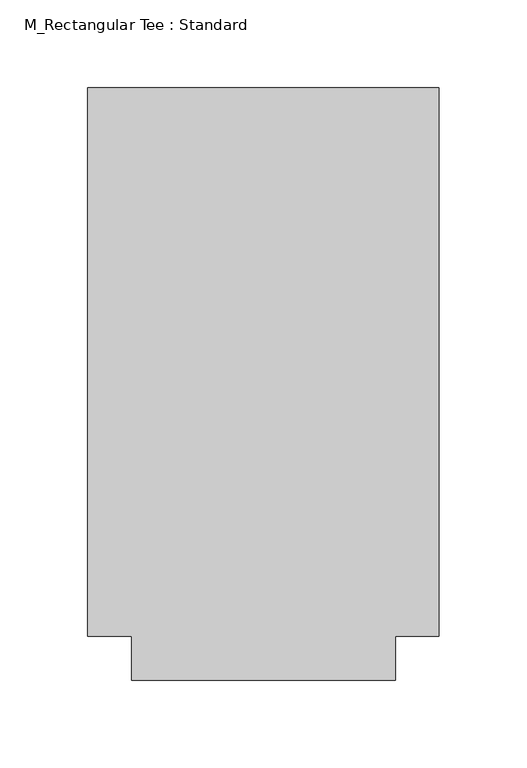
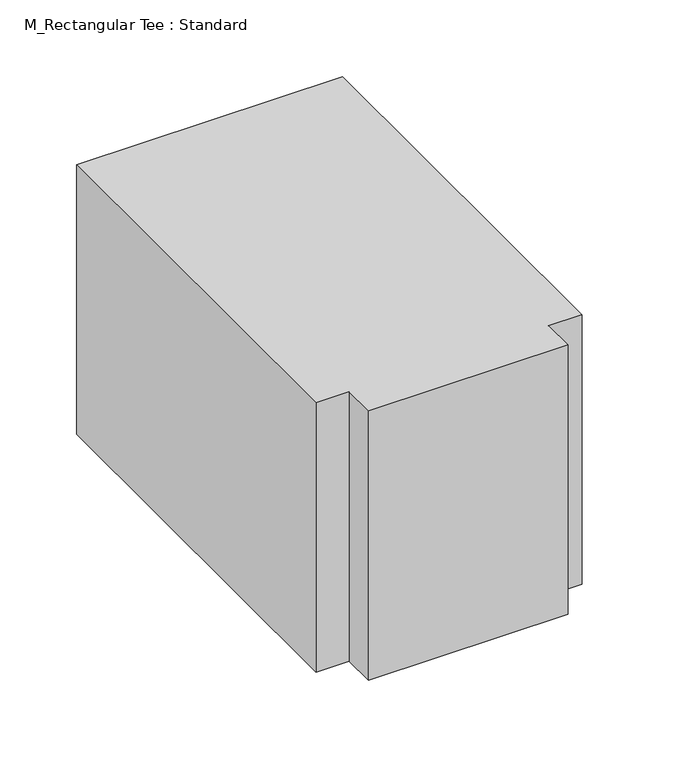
"""IFC4 building model written with IfcOpenShell, lengths in millimetres: duct fitting geometry, M_Rectangular Tee : Standard."""

import ifcopenshell
import ifcopenshell.guid

model = None  # the IFC model being written
_history = None  # IfcOwnerHistory: only IFC2X3 demands one
_inside = {}  # id of a spatial element -> (the spatial element, [elements in it])
_under = {}  # id of a project, library or spatial element -> (it, [spatial elements below it])
_declared = {}  # id of a project -> (the project, [libraries it declares])
_typed = {}  # id of a type object -> (the type object, [elements of that type])
_made_of = {}  # id of a material, layer set ... -> (it, [elements and type objects made of it])


def new_model(schema):
    """Start an empty IFC model of exactly this schema.

    Asked for "IFC4X3", IfcOpenShell would pick the latest addendum, in which some entities
    have other attributes; the version numbers below select the first issue.
    IFC2X3 requires an IfcOwnerHistory on every rooted entity: one is made here for all.
    """
    global model, _history
    if schema == "IFC4X3":
        model = ifcopenshell.file(schema_version=(4, 3, 0, 0))
    else:
        model = ifcopenshell.file(schema=schema)
    _inside.clear()
    _under.clear()
    _declared.clear()
    _typed.clear()
    _made_of.clear()
    _history = None
    if model.schema == "IFC2X3":
        org = make("IfcOrganization", Name="unknown")
        user = make(
            "IfcPersonAndOrganization",
            ThePerson=make("IfcPerson", FamilyName="unknown"),
            TheOrganization=org,
        )
        app = make(
            "IfcApplication",
            ApplicationDeveloper=org,
            Version="unknown",
            ApplicationFullName="unknown",
            ApplicationIdentifier="unknown",
        )
        _history = make(
            "IfcOwnerHistory",
            OwningUser=user,
            OwningApplication=app,
            ChangeAction="ADDED",
            CreationDate=0,
        )
    return model


def make(cls, **values):
    """One entity of the class cls with the attributes given. An attribute that is None is left unset."""
    return model.create_entity(
        cls, **{name: value for name, value in values.items() if value is not None}
    )


def rooted(cls, **values):
    """An entity with a GlobalId (a new one), such as an element, a storey or a relation."""
    return make(cls, GlobalId=ifcopenshell.guid.new(), OwnerHistory=_history, **values)


def si_unit(unit_type, name, prefix=None):
    """IfcSIUnit, for example si_unit("LENGTHUNIT", "METRE", prefix="MILLI")."""
    return make("IfcSIUnit", UnitType=unit_type, Prefix=prefix, Name=name)


def assignment(units):
    """IfcUnitAssignment: the units of a project."""
    return None if units is None else make("IfcUnitAssignment", Units=units)


def point(xyz):
    """IfcCartesianPoint."""
    return None if xyz is None else make("IfcCartesianPoint", Coordinates=xyz)


def direction(xyz):
    """IfcDirection."""
    return None if xyz is None else make("IfcDirection", DirectionRatios=xyz)


def frame(location, z_axis=None, x_axis=None):
    """IfcAxis2Placement3D, a coordinate frame: its origin and axes. An axis left out is left unset."""
    return make(
        "IfcAxis2Placement3D",
        Location=point(location),
        Axis=direction(z_axis),
        RefDirection=direction(x_axis),
    )


def origin():
    """The frame at (0, 0, 0) with its axes left unset."""
    return frame((0.0, 0.0, 0.0))


def place(relative_to, where):
    """IfcLocalPlacement: puts the frame where relative to a parent placement (None: the world)."""
    return make(
        "IfcLocalPlacement", PlacementRelTo=relative_to, RelativePlacement=where
    )


def context(
    kind, dimensions, precision=None, world=None, true_north=None, identifier=None
):
    """IfcGeometricRepresentationContext, for example the 3D "Model" context."""
    return make(
        "IfcGeometricRepresentationContext",
        ContextIdentifier=identifier,
        ContextType=kind,
        CoordinateSpaceDimension=dimensions,
        Precision=precision,
        WorldCoordinateSystem=world,
        TrueNorth=true_north,
    )


def project(units=None, contexts=None):
    """IfcProject with its units and contexts."""
    return rooted(
        "IfcProject",
        Name="project",
        RepresentationContexts=contexts,
        UnitsInContext=assignment(units),
    )


def spatial(cls, under=None, at=None, **own):
    """A site, building, storey or space (cls), placed at a placement, below another one or the project."""
    s = rooted(cls, ObjectPlacement=at, **own)
    if under is not None:
        _under.setdefault(under.id(), (under, []))[1].append(s)
    return s


def polyline(points):
    """IfcPolyline through the points."""
    return make("IfcPolyline", Points=[point(p) for p in points])


def outline(outer, holes=None, kind="AREA"):
    """IfcArbitraryClosedProfileDef: a profile drawn as a closed curve; with holes, ...WithVoids."""
    if holes is None:
        return make("IfcArbitraryClosedProfileDef", ProfileType=kind, OuterCurve=outer)
    return make(
        "IfcArbitraryProfileDefWithVoids",
        ProfileType=kind,
        OuterCurve=outer,
        InnerCurves=holes,
    )


def extrude(swept, where, along, depth):
    """IfcExtrudedAreaSolid: the profile swept, set in the frame where, extruded along a direction by depth."""
    return make(
        "IfcExtrudedAreaSolid",
        SweptArea=swept,
        Position=where,
        ExtrudedDirection=direction(along),
        Depth=depth,
    )


def shape(context_of_items, identifier, shape_type, items):
    """IfcShapeRepresentation: the items that make up one representation, for example the "Body"."""
    return make(
        "IfcShapeRepresentation",
        ContextOfItems=context_of_items,
        RepresentationIdentifier=identifier,
        RepresentationType=shape_type,
        Items=items,
    )


def source(mapping_origin, context_of_items, identifier, shape_type, items):
    """IfcRepresentationMap: a shape defined once, which mapped items show again and again."""
    return make(
        "IfcRepresentationMap",
        MappingOrigin=mapping_origin,
        MappedRepresentation=shape(context_of_items, identifier, shape_type, items),
    )


def transform(
    local_origin,
    x_axis=None,
    y_axis=None,
    z_axis=None,
    scale=None,
    scale2=None,
    scale3=None,
    uniform=True,
):
    """IfcCartesianTransformationOperator3D, or its non-uniform kind. x_axis, y_axis, z_axis: its Axis1, 2, 3."""
    if uniform:
        return make(
            "IfcCartesianTransformationOperator3D",
            Axis1=direction(x_axis),
            Axis2=direction(y_axis),
            LocalOrigin=point(local_origin),
            Scale=scale,
            Axis3=direction(z_axis),
        )
    return make(
        "IfcCartesianTransformationOperator3DnonUniform",
        Axis1=direction(x_axis),
        Axis2=direction(y_axis),
        LocalOrigin=point(local_origin),
        Scale=scale,
        Axis3=direction(z_axis),
        Scale2=scale2,
        Scale3=scale3,
    )


def mapped(mapping_source, mapping_target):
    """IfcMappedItem: shows the shape of a source again, moved by a transform."""
    return make(
        "IfcMappedItem", MappingSource=mapping_source, MappingTarget=mapping_target
    )


def made_of(thing, what):
    """Note that an element or type object is made of a material, layer set ...; save() writes the relation."""
    if what is not None:
        _made_of.setdefault(what.id(), (what, []))[1].append(thing)
    return thing


def element(
    cls,
    number,
    at=None,
    inside=None,
    cuts=None,
    type_object=None,
    material=None,
    context=None,
    identifier="Body",
    shape_type=None,
    held_by="IfcProductDefinitionShape",
    body=None,
    shapes=None,
    **own,
):
    """One element of the class cls, such as IfcWall. Its Tag is "e" and its number.

    at: its placement. inside: the storey or other place that contains it. cuts: it is an
    opening in that element (IfcRelVoidsElement). A single representation is given by context,
    identifier, shape_type and body (its items); several are given by shapes. held_by: the class
    of the entity that holds the representations. save() writes the other relations.
    """
    e = rooted(cls, Tag="e%d" % number, ObjectPlacement=at, **own)
    if body is not None:
        shapes = [shape(context, identifier, shape_type, body)]
    if shapes is not None:
        e.Representation = make(held_by, Representations=shapes)
    if inside is not None:
        _inside.setdefault(inside.id(), (inside, []))[1].append(e)
    if cuts is not None:
        rooted(
            "IfcRelVoidsElement", RelatingBuildingElement=cuts, RelatedOpeningElement=e
        )
    if type_object is not None:
        _typed.setdefault(type_object.id(), (type_object, []))[1].append(e)
    return made_of(e, material)


def aggregate(whole, parts):
    """IfcRelAggregates: a whole, such as a stair, and the parts it consists of."""
    return rooted("IfcRelAggregates", RelatingObject=whole, RelatedObjects=parts)


def save(model, path):
    """Write the relations noted so far, then the file.

    IfcRelAggregates (storeys below a building ...), IfcRelContainedInSpatialStructure (elements
    in a storey), IfcRelDefinesByType, IfcRelAssociatesMaterial and IfcRelDeclares: one each for
    every whole, place, type object, material and project.
    """
    for whole, parts in _under.values():
        aggregate(whole, parts)
    for where, things in _inside.values():
        rooted(
            "IfcRelContainedInSpatialStructure",
            RelatedElements=things,
            RelatingStructure=where,
        )
    for kind, things in _typed.values():
        rooted("IfcRelDefinesByType", RelatedObjects=things, RelatingType=kind)
    for what, things in _made_of.values():
        rooted("IfcRelAssociatesMaterial", RelatedObjects=things, RelatingMaterial=what)
    for by, libraries in _declared.values():
        rooted("IfcRelDeclares", RelatingContext=by, RelatedDefinitions=libraries)
    model.write(path)


def m_rectangular_tee_standard_5b520c83(model_context):
    return source(origin(), model_context, "Body", "SweptSolid", [
        extrude(outline(polyline([(-100.0, -155.9375), (-100.0, 155.9375), (100.0, 155.9375), (100.0, -155.9375), (75.0, -155.9375), (75.0, -180.9375), (-75.0, -180.9375), (-75.0, -155.9375), (-100.0, -155.9375)])), frame((0.0, 0.0, -107.1375), z_axis=(0.0, 0.0, 1.0), x_axis=(1.0, 0.0, 0.0)), (0.0, 0.0, 1.0), 214.275),
    ])


if __name__ == "__main__":
    model = new_model("IFC4")
    model_context = context("Model", 3, world=origin())
    ifc_project = project(units=[si_unit("LENGTHUNIT", "METRE", prefix="MILLI")], contexts=[model_context])
    site = spatial("IfcSite", under=ifc_project)
    building = spatial("IfcBuilding", under=site)
    placement = place(None, origin())
    m_rectangular_tee_standard_shape = m_rectangular_tee_standard_5b520c83(model_context)
    element("IfcDuctFitting", 1, ObjectType="M_Rectangular Tee : Standard", at=placement, inside=building, context=model_context, shape_type="MappedRepresentation", body=[
        mapped(m_rectangular_tee_standard_shape, transform((0.0, 0.0, 0.0), x_axis=(1.0, 0.0, 0.0), y_axis=(0.0, 1.0, 0.0), z_axis=(0.0, 0.0, 1.0))),
    ])
    save(model, "model.ifc")
